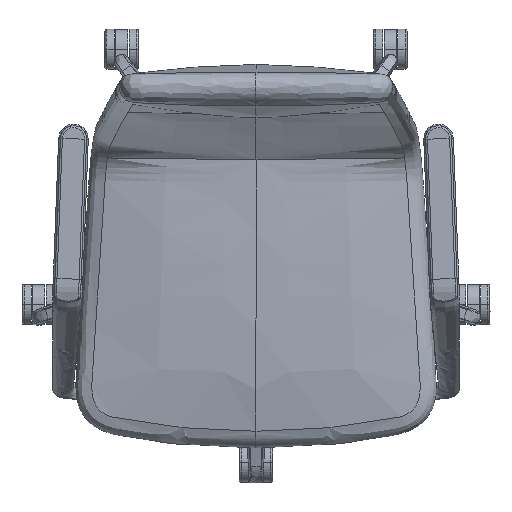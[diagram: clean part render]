
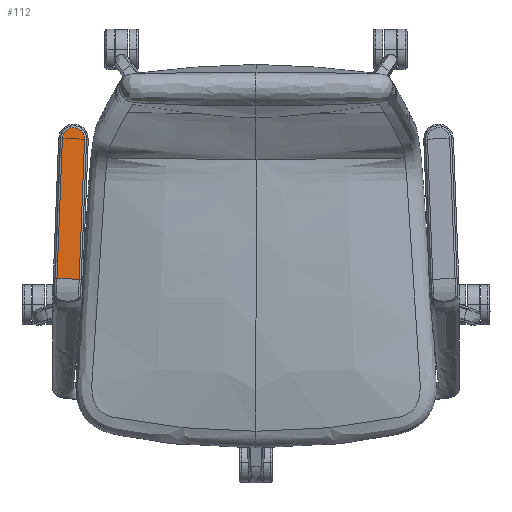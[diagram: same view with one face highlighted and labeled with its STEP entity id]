
A CAD part, top view. The second image highlights one B-rep face of the part: STEP entity #112.
In plain terms, the highlighted planar face has unit normal (0.001, 0.019, 1).
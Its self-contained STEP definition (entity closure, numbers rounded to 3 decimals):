
#112=ADVANCED_FACE('',(#545),#5933,.T.);
#545=FACE_OUTER_BOUND('',#978,.T.);
#978=EDGE_LOOP('',(#1430,#1431));
#1430=ORIENTED_EDGE('',*,*,#3311,.T.);
#1431=ORIENTED_EDGE('',*,*,#3304,.F.);
#3304=EDGE_CURVE('',#5332,#5327,#4928,.T.);
#3311=EDGE_CURVE('',#5332,#5327,#4313,.T.);
#4313=(
BOUNDED_CURVE()
B_SPLINE_CURVE(3,(#7368,#7369,#7370,#7371,#7372,#7373,#7374,#7375,#7376,
#7377,#7378,#7379,#7380,#7381,#7382,#7383,#7384,#7385,#7386,#7387,#7388,
#7389,#7390),.UNSPECIFIED.,.F.,.F.)
B_SPLINE_CURVE_WITH_KNOTS((4,3,3,1,1,1,1,1,1,1,3,3,4),(0.,
4.793,208.24,214.719,221.199,227.678,
234.157,240.637,247.116,253.596,260.075,
463.522,468.315),.UNSPECIFIED.)
CURVE()
GEOMETRIC_REPRESENTATION_ITEM()
RATIONAL_B_SPLINE_CURVE((1.,1.,1.,1.,1.,1.,1.,1.,1.,1.,1.,
1.,1.,1.,1.,1.,1.,1.,
1.,1.,1.,1.,1.))
REPRESENTATION_ITEM('')
);
#4928=B_SPLINE_CURVE_WITH_KNOTS('',1,(#7305,#7306),.UNSPECIFIED.,.F.,.F.,
(2,2),(0.077,0.923),.UNSPECIFIED.);
#5327=VERTEX_POINT('',#7186);
#5332=VERTEX_POINT('',#7191);
#5933=PLANE('',#6454);
#6454=AXIS2_PLACEMENT_3D('',#6828,#6557,$);
#6557=DIRECTION('',(0.001,0.019,1.));
#6828=CARTESIAN_POINT('',(-289.75,179.126,650.772));
#7186=CARTESIAN_POINT('',(-295.503,-48.519,655.148));
#7191=CARTESIAN_POINT('',(-262.527,-49.788,655.148));
#7305=CARTESIAN_POINT('',(-262.527,-49.788,655.148));
#7306=CARTESIAN_POINT('',(-295.503,-48.519,655.148));
#7368=CARTESIAN_POINT('',(-262.527,-49.788,655.148));
#7369=CARTESIAN_POINT('',(-262.466,-48.191,655.117));
#7370=CARTESIAN_POINT('',(-262.404,-46.595,655.086));
#7371=CARTESIAN_POINT('',(-262.343,-44.999,655.056));
#7372=CARTESIAN_POINT('',(-259.738,22.754,653.753));
#7373=CARTESIAN_POINT('',(-257.131,90.507,652.45));
#7374=CARTESIAN_POINT('',(-254.526,158.26,651.147));
#7375=CARTESIAN_POINT('',(-254.441,160.418,651.105));
#7376=CARTESIAN_POINT('',(-255.135,164.766,651.022));
#7377=CARTESIAN_POINT('',(-258.591,170.394,650.917));
#7378=CARTESIAN_POINT('',(-263.938,174.272,650.846));
#7379=CARTESIAN_POINT('',(-270.363,175.809,650.821));
#7380=CARTESIAN_POINT('',(-276.886,174.77,650.846));
#7381=CARTESIAN_POINT('',(-282.516,171.315,650.917));
#7382=CARTESIAN_POINT('',(-286.394,165.968,651.022));
#7383=CARTESIAN_POINT('',(-287.419,161.686,651.105));
#7384=CARTESIAN_POINT('',(-287.501,159.528,651.147));
#7385=CARTESIAN_POINT('',(-290.107,91.775,652.45));
#7386=CARTESIAN_POINT('',(-292.713,24.022,653.753));
#7387=CARTESIAN_POINT('',(-295.319,-43.731,655.056));
#7388=CARTESIAN_POINT('',(-295.38,-45.327,655.086));
#7389=CARTESIAN_POINT('',(-295.442,-46.923,655.117));
#7390=CARTESIAN_POINT('',(-295.503,-48.519,655.148));
